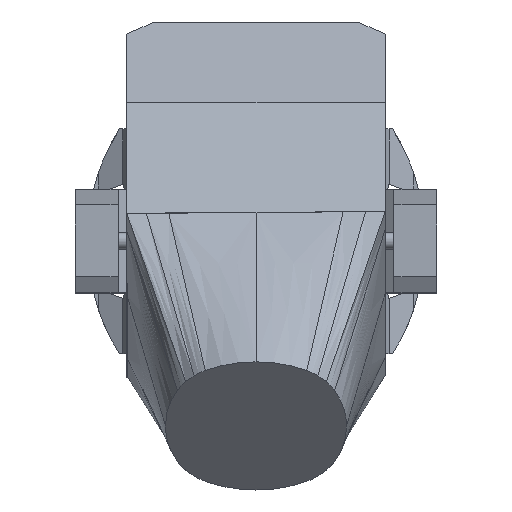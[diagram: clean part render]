
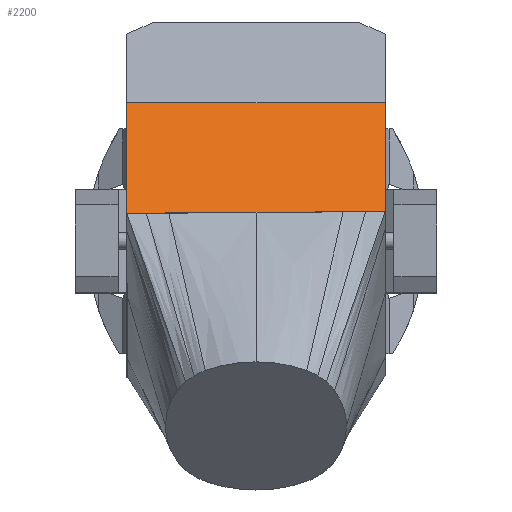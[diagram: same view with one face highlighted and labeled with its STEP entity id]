
A CAD part, top view. The second image highlights one B-rep face of the part: STEP entity #2200.
In plain terms, the highlighted planar face has unit normal (0, 0.698, 0.716) as drawn and (0, 1, 0.013) by its records, which use the part's own axes.
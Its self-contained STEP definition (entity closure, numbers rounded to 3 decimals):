
#141=PLANE('',#2347);
#218=FACE_OUTER_BOUND('',#338,.T.);
#338=EDGE_LOOP('',(#1556,#1557,#1558,#1559));
#464=LINE('',#3075,#702);
#479=LINE('',#3105,#717);
#488=LINE('',#3122,#726);
#494=LINE('',#3133,#732);
#702=VECTOR('',#2515,10.);
#717=VECTOR('',#2534,10.);
#726=VECTOR('',#2545,10.);
#732=VECTOR('',#2555,10.);
#961=VERTEX_POINT('',#3072);
#962=VERTEX_POINT('',#3074);
#975=VERTEX_POINT('',#3104);
#982=VERTEX_POINT('',#3120);
#1183=EDGE_CURVE('',#961,#962,#464,.T.);
#1198=EDGE_CURVE('',#962,#975,#479,.T.);
#1207=EDGE_CURVE('',#982,#961,#488,.T.);
#1213=EDGE_CURVE('',#975,#982,#494,.T.);
#1556=ORIENTED_EDGE('',*,*,#1198,.F.);
#1557=ORIENTED_EDGE('',*,*,#1183,.F.);
#1558=ORIENTED_EDGE('',*,*,#1207,.F.);
#1559=ORIENTED_EDGE('',*,*,#1213,.F.);
#2200=ADVANCED_FACE('',(#218),#141,.F.);
#2347=AXIS2_PLACEMENT_3D('',#3132,#2553,#2554);
#2515=DIRECTION('',(-1.,0.,0.009));
#2534=DIRECTION('',(0.,0.013,-1.));
#2545=DIRECTION('',(0.,-0.013,1.));
#2553=DIRECTION('center_axis',(0.,-1.,-0.013));
#2554=DIRECTION('ref_axis',(0.,0.013,-1.));
#2555=DIRECTION('',(1.,0.,0.));
#3072=CARTESIAN_POINT('',(154.609,137.065,544.436));
#3074=CARTESIAN_POINT('',(-154.609,137.027,547.344));
#3075=CARTESIAN_POINT('',(0.317,137.046,545.887));
#3104=CARTESIAN_POINT('',(-154.609,139.472,362.158));
#3105=CARTESIAN_POINT('',(-154.609,139.148,386.662));
#3120=CARTESIAN_POINT('',(154.609,139.472,362.158));
#3122=CARTESIAN_POINT('',(154.609,137.034,546.796));
#3132=CARTESIAN_POINT('Origin',(0.,137.065,544.436));
#3133=CARTESIAN_POINT('',(0.,139.472,362.158));
